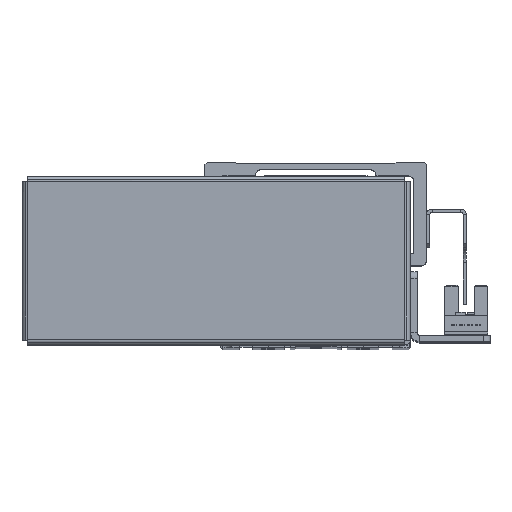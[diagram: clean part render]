
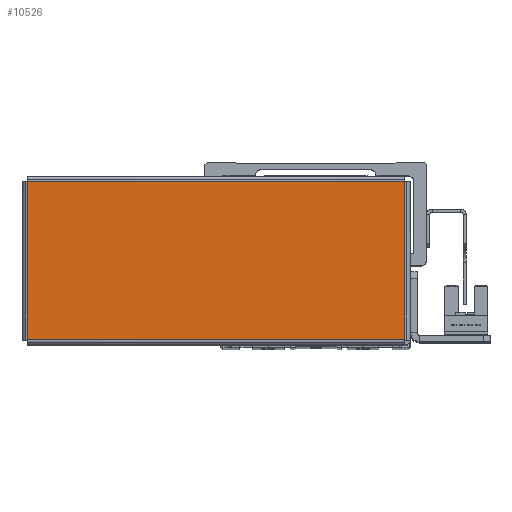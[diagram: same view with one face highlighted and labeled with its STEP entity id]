
A CAD part, top view. The second image highlights one B-rep face of the part: STEP entity #10526.
In plain terms, the highlighted planar face has unit normal (0, 0, 1) as drawn and (0, 0, -1) by its records, which use the part's own axes.
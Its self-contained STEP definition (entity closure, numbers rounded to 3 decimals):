
#3250 = VERTEX_POINT ( 'NONE', #7036 ) ;
#3270 = VERTEX_POINT ( 'NONE', #7048 ) ;
#3281 = VERTEX_POINT ( 'NONE', #7004 ) ;
#3320 = VERTEX_POINT ( 'NONE', #6993 ) ;
#3806 = EDGE_LOOP ( 'NONE', ( #15989, #15971, #15960, #15951 ) ) ;
#6993 = CARTESIAN_POINT ( 'NONE',  ( 59.513, 25.013, -1. ) ) ;
#7004 = CARTESIAN_POINT ( 'NONE',  ( 59.513, -25.013, -1. ) ) ;
#7036 = CARTESIAN_POINT ( 'NONE',  ( -59.513, -25.013, -1. ) ) ;
#7048 = CARTESIAN_POINT ( 'NONE',  ( -59.513, 25.013, -1. ) ) ;
#8669 = LINE ( 'NONE', #28530, #8695 ) ;
#8695 = VECTOR ( 'NONE', #28502, 1000. ) ;
#8797 = LINE ( 'NONE', #28666, #8897 ) ;
#8803 = LINE ( 'NONE', #28659, #8881 ) ;
#8841 = LINE ( 'NONE', #28546, #8879 ) ;
#8879 = VECTOR ( 'NONE', #28550, 1000. ) ;
#8881 = VECTOR ( 'NONE', #28668, 1000. ) ;
#8897 = VECTOR ( 'NONE', #28627, 1000. ) ;
#10526 = ADVANCED_FACE ( 'NONE', ( #24142 ), #22448, .F. ) ;
#15951 = ORIENTED_EDGE ( 'NONE', *, *, #26146, .T. ) ;
#15960 = ORIENTED_EDGE ( 'NONE', *, *, #26142, .T. ) ;
#15971 = ORIENTED_EDGE ( 'NONE', *, *, #26118, .T. ) ;
#15989 = ORIENTED_EDGE ( 'NONE', *, *, #26099, .T. ) ;
#18646 = AXIS2_PLACEMENT_3D ( 'NONE', #22467, #22471, #22454 ) ;
#22448 = PLANE ( 'NONE',  #18646 ) ;
#22454 = DIRECTION ( 'NONE',  ( 1., 0., 0. ) ) ;
#22467 = CARTESIAN_POINT ( 'NONE',  ( 0., 0., -1. ) ) ;
#22471 = DIRECTION ( 'NONE',  ( 0., 0., 1. ) ) ;
#24142 = FACE_OUTER_BOUND ( 'NONE', #3806, .T. ) ;
#26099 = EDGE_CURVE ( 'NONE', #3320, #3281, #8669, .T. ) ;
#26118 = EDGE_CURVE ( 'NONE', #3281, #3250, #8841, .T. ) ;
#26142 = EDGE_CURVE ( 'NONE', #3250, #3270, #8797, .T. ) ;
#26146 = EDGE_CURVE ( 'NONE', #3270, #3320, #8803, .T. ) ;
#28502 = DIRECTION ( 'NONE',  ( 0., -1., 0. ) ) ;
#28530 = CARTESIAN_POINT ( 'NONE',  ( 59.513, 25.043, -1. ) ) ;
#28546 = CARTESIAN_POINT ( 'NONE',  ( 59.543, -25.013, -1. ) ) ;
#28550 = DIRECTION ( 'NONE',  ( -1., 0., 0. ) ) ;
#28627 = DIRECTION ( 'NONE',  ( 0., 1., 0. ) ) ;
#28659 = CARTESIAN_POINT ( 'NONE',  ( -59.543, 25.013, -1. ) ) ;
#28666 = CARTESIAN_POINT ( 'NONE',  ( -59.513, -25.043, -1. ) ) ;
#28668 = DIRECTION ( 'NONE',  ( 1., 0., 0. ) ) ;
